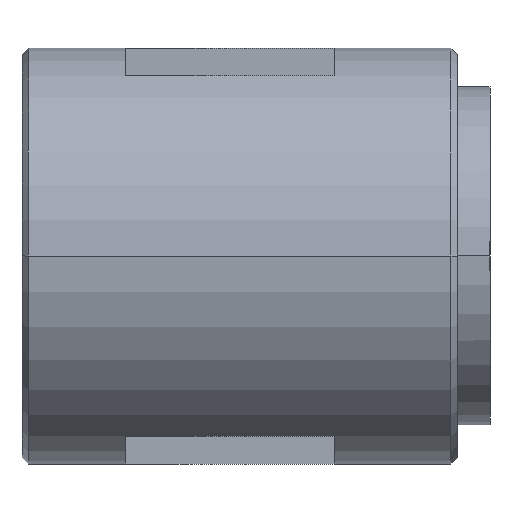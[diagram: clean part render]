
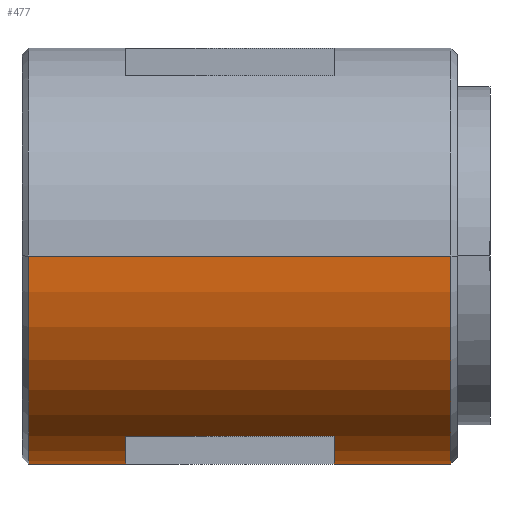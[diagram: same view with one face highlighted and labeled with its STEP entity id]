
A CAD part, left-side view. The second image highlights one B-rep face of the part: STEP entity #477.
In plain terms, the highlighted cylindrical face has radius 16 mm (diameter 32 mm), a partial arc.
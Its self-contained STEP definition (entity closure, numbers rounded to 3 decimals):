
#277=CARTESIAN_POINT('',(-16.0,15.25,0.));
#278=VERTEX_POINT('',#277);
#294=CARTESIAN_POINT('',(16.0,15.25,0.0));
#295=VERTEX_POINT('',#294);
#302=CARTESIAN_POINT('',(0.0,15.25,0.0));
#303=DIRECTION('',(0.0,1.0,0.0));
#304=DIRECTION('',(-1.0,0.0,0.0));
#305=AXIS2_PLACEMENT_3D('',#302,#303,#304);
#306=CIRCLE('',#305,16.0);
#307=EDGE_CURVE('',#295,#278,#306,.T.);
#354=CARTESIAN_POINT('',(0.0,-17.75,0.0));
#355=DIRECTION('',(0.0,1.0,0.0));
#356=DIRECTION('',(1.0,0.0,0.0));
#357=AXIS2_PLACEMENT_3D('',#354,#355,#356);
#358=CYLINDRICAL_SURFACE('',#357,16.0);
#359=CARTESIAN_POINT('',(16.0,-17.25,0.));
#360=VERTEX_POINT('',#359);
#361=CARTESIAN_POINT('',(16.0,-13.0,0.));
#362=VERTEX_POINT('',#361);
#363=CARTESIAN_POINT('',(16.0,-17.25,0.));
#364=DIRECTION('',(0.0,1.0,0.0));
#365=VECTOR('',#364,4.25);
#366=LINE('',#363,#365);
#367=EDGE_CURVE('',#360,#362,#366,.T.);
#368=ORIENTED_EDGE('',*,*,#367,.F.);
#369=CARTESIAN_POINT('',(-16.0,-17.25,0.0));
#370=VERTEX_POINT('',#369);
#371=CARTESIAN_POINT('',(0.0,-17.25,0.0));
#372=DIRECTION('',(0.0,-1.0,0.0));
#373=DIRECTION('',(1.0,0.0,0.0));
#374=AXIS2_PLACEMENT_3D('',#371,#372,#373);
#375=CIRCLE('',#374,16.0);
#376=EDGE_CURVE('',#370,#360,#375,.T.);
#377=ORIENTED_EDGE('',*,*,#376,.F.);
#378=CARTESIAN_POINT('',(-16.0,15.25,0.));
#379=DIRECTION('',(0.0,-1.0,0.0));
#380=VECTOR('',#379,32.5);
#381=LINE('',#378,#380);
#382=EDGE_CURVE('',#278,#370,#381,.T.);
#383=ORIENTED_EDGE('',*,*,#382,.F.);
#384=ORIENTED_EDGE('',*,*,#307,.F.);
#385=CARTESIAN_POINT('',(16.0,12.5,0.));
#386=VERTEX_POINT('',#385);
#387=CARTESIAN_POINT('',(16.0,12.5,0.));
#388=DIRECTION('',(0.0,1.0,0.0));
#389=VECTOR('',#388,2.75);
#390=LINE('',#387,#389);
#391=EDGE_CURVE('',#386,#295,#390,.T.);
#392=ORIENTED_EDGE('',*,*,#391,.F.);
#393=CARTESIAN_POINT('',(10.583,-0.25,-12.0));
#394=VERTEX_POINT('',#393);
#395=CARTESIAN_POINT('',(16.0,12.5,0.));
#396=CARTESIAN_POINT('',(16.0,12.5,-2.02));
#397=CARTESIAN_POINT('',(15.589,11.931,-4.035));
#398=CARTESIAN_POINT('',(14.111,9.707,-7.888));
#399=CARTESIAN_POINT('',(12.9,7.841,-9.579));
#400=CARTESIAN_POINT('',(11.177,3.861,-11.503));
#401=CARTESIAN_POINT('',(10.583,1.828,-12.0));
#402=CARTESIAN_POINT('',(10.583,-0.25,-12.0));
#403=B_SPLINE_CURVE_WITH_KNOTS('',3,(#395,#396,#397,#398,#399,#400,#401,#402),.UNSPECIFIED.,.F.,.U.,(4,2,2,4),(56.024,61.784,69.131,74.692),.UNSPECIFIED.);
#404=EDGE_CURVE('',#394,#386,#403,.F.);
#405=ORIENTED_EDGE('',*,*,#404,.F.);
#406=CARTESIAN_POINT('',(10.583,-0.25,-12.0));
#407=CARTESIAN_POINT('',(10.583,-1.054,-12.0));
#408=CARTESIAN_POINT('',(10.667,-1.859,-11.927));
#409=CARTESIAN_POINT('',(11.06,-3.872,-11.567));
#410=CARTESIAN_POINT('',(11.467,-5.036,-11.18));
#411=CARTESIAN_POINT('',(12.628,-7.707,-9.881));
#412=CARTESIAN_POINT('',(13.444,-9.1,-8.805));
#413=CARTESIAN_POINT('',(15.064,-11.693,-5.737));
#414=CARTESIAN_POINT('',(15.788,-12.699,-3.516));
#415=CARTESIAN_POINT('',(15.986,-12.98,-0.769));
#416=CARTESIAN_POINT('',(16.0,-13.0,-0.383));
#417=CARTESIAN_POINT('',(16.0,-13.0,0.));
#418=B_SPLINE_CURVE_WITH_KNOTS('',3,(#406,#407,#408,#409,#410,#411,#412,#413,#414,#415,#416,#417),.UNSPECIFIED.,.F.,.U.,(4,2,2,2,2,4),(0.0,2.152,5.594,10.803,17.572,18.665),.UNSPECIFIED.);
#419=EDGE_CURVE('',#362,#394,#418,.F.);
#420=ORIENTED_EDGE('',*,*,#419,.F.);
#421=EDGE_LOOP('',(#368,#377,#383,#384,#392,#405,#420));
#422=FACE_OUTER_BOUND('',#421,.T.);
#423=CARTESIAN_POINT('',(8.,7.75,-13.856));
#424=VERTEX_POINT('',#423);
#425=CARTESIAN_POINT('',(0.0,7.75,-16.0));
#426=VERTEX_POINT('',#425);
#427=CARTESIAN_POINT('',(0.0,7.75,0.0));
#428=DIRECTION('',(0.0,1.0,0.0));
#429=DIRECTION('',(1.0,0.0,0.0));
#430=AXIS2_PLACEMENT_3D('',#427,#428,#429);
#431=CIRCLE('',#430,16.0);
#432=EDGE_CURVE('',#424,#426,#431,.T.);
#433=ORIENTED_EDGE('',*,*,#432,.T.);
#434=CARTESIAN_POINT('',(-8.0,7.75,-13.856));
#435=VERTEX_POINT('',#434);
#436=CARTESIAN_POINT('',(0.0,7.75,0.0));
#437=DIRECTION('',(0.0,1.0,0.0));
#438=DIRECTION('',(1.0,0.0,0.0));
#439=AXIS2_PLACEMENT_3D('',#436,#437,#438);
#440=CIRCLE('',#439,16.0);
#441=EDGE_CURVE('',#426,#435,#440,.T.);
#442=ORIENTED_EDGE('',*,*,#441,.T.);
#443=CARTESIAN_POINT('',(-8.0,-8.25,-13.856));
#444=VERTEX_POINT('',#443);
#445=CARTESIAN_POINT('',(-8.0,7.75,-13.856));
#446=DIRECTION('',(0.0,-1.0,0.0));
#447=VECTOR('',#446,16.0);
#448=LINE('',#445,#447);
#449=EDGE_CURVE('',#435,#444,#448,.T.);
#450=ORIENTED_EDGE('',*,*,#449,.T.);
#451=CARTESIAN_POINT('',(0.0,-8.25,-16.0));
#452=VERTEX_POINT('',#451);
#453=CARTESIAN_POINT('',(0.0,-8.25,0.0));
#454=DIRECTION('',(0.0,-1.0,0.0));
#455=DIRECTION('',(1.0,0.0,0.0));
#456=AXIS2_PLACEMENT_3D('',#453,#454,#455);
#457=CIRCLE('',#456,16.0);
#458=EDGE_CURVE('',#444,#452,#457,.T.);
#459=ORIENTED_EDGE('',*,*,#458,.T.);
#460=CARTESIAN_POINT('',(8.,-8.25,-13.856));
#461=VERTEX_POINT('',#460);
#462=CARTESIAN_POINT('',(0.0,-8.25,0.0));
#463=DIRECTION('',(0.0,-1.0,0.0));
#464=DIRECTION('',(1.0,0.0,0.0));
#465=AXIS2_PLACEMENT_3D('',#462,#463,#464);
#466=CIRCLE('',#465,16.0);
#467=EDGE_CURVE('',#452,#461,#466,.T.);
#468=ORIENTED_EDGE('',*,*,#467,.T.);
#469=CARTESIAN_POINT('',(8.,-8.25,-13.856));
#470=DIRECTION('',(0.0,1.0,0.0));
#471=VECTOR('',#470,16.);
#472=LINE('',#469,#471);
#473=EDGE_CURVE('',#461,#424,#472,.T.);
#474=ORIENTED_EDGE('',*,*,#473,.T.);
#475=EDGE_LOOP('',(#433,#442,#450,#459,#468,#474));
#476=FACE_BOUND('',#475,.T.);
#477=ADVANCED_FACE('',(#422,#476),#358,.T.);
